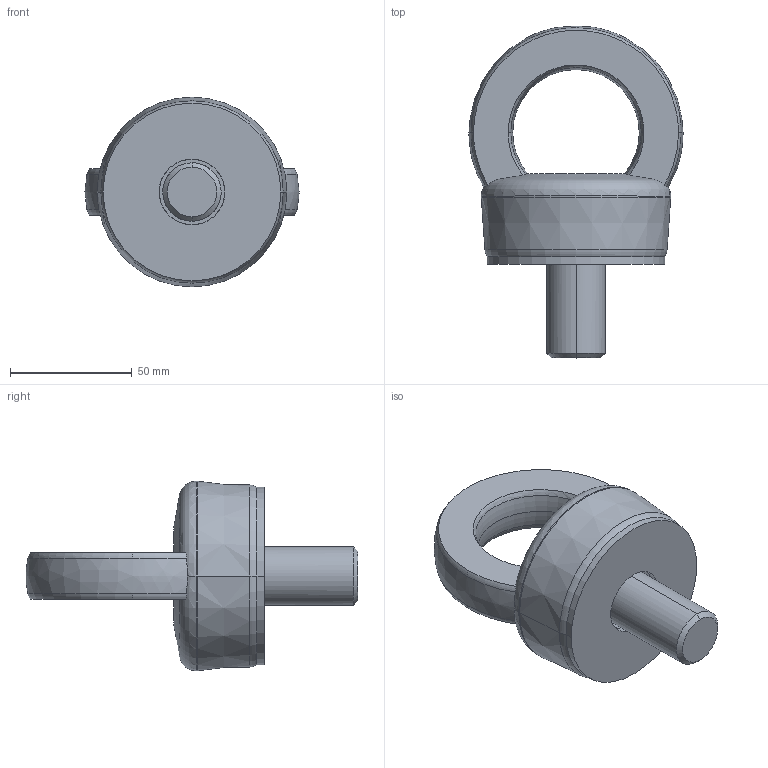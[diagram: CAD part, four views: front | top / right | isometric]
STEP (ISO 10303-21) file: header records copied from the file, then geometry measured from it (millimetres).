
FILE_DESCRIPTION(('CATIA V5 STEP Exchange'),'2;1');
FILE_NAME('C:\Users\Raffaele\Desktop\3D X SITO CF\GOLFARI\817XC\RCM_C817XC24\STEP-2.03\C817X24.stp','2019-07-01T07:20:12+00:00',('none'),('none'),'CATIA Version 5 Release 20 GA (IN-10)','CATIA V5 STEP AP203','none');
FILE_SCHEMA(('CONFIG_CONTROL_DESIGN'));
Length unit declared in the file: millimetre
Products named in the file (1): _C817X24
Bounding box: 88 x 136.41 x 77.92 mm (x, y, z)
Volume: 216917.6 mm3; surface area: 36819.1 mm2
Topology: 1 solids, 1 shells, 61 faces, 173 edges, 117 vertices
Faces by surface type: torus 26, plane 15, cylinder 12, cone 6, bspline 2
Entity records: 2341 total; most frequent: CARTESIAN_POINT 851, ORIENTED_EDGE 346, DIRECTION 222, EDGE_CURVE 173, AXIS2_PLACEMENT_3D 136, VERTEX_POINT 117, CIRCLE 82, EDGE_LOOP 66
